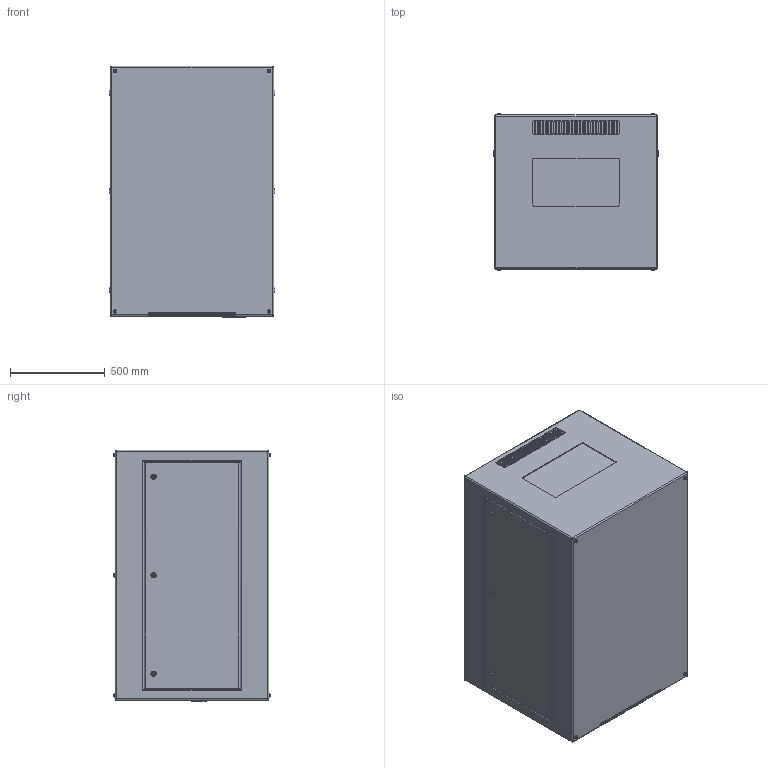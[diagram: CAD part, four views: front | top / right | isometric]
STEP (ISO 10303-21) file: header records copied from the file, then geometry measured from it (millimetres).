
FILE_DESCRIPTION (( 'STEP AP214' ), '1' );
FILE_NAME ('Zen 57.305.L R11.STEP', '2022-09-15T21:16:05', ( '' ), ( '' ), 'SwSTEP 2.0', 'SolidWorks 2020', '' );
FILE_SCHEMA (( 'AUTOMOTIVE_DESIGN' ));
Length unit declared in the file: inch
Products named in the file (1): Zen 57.305.L R11
Bounding box: 876.3 x 827.52 x 1328.42 mm (x, y, z)
Volume: 925519027.7 mm3; surface area: 6207500 mm2
Topology: 1 solids, 7 shells, 1134 faces, 2856 edges, 1758 vertices
Faces by surface type: plane 518, cylinder 490, sphere 74, torus 52
Entity records: 37496 total; most frequent: CARTESIAN_POINT 6211, DIRECTION 5988, ORIENTED_EDGE 5564, EDGE_CURVE 2782, AXIS2_PLACEMENT_3D 2167, VERTEX_POINT 1758, VECTOR 1654, LINE 1654
